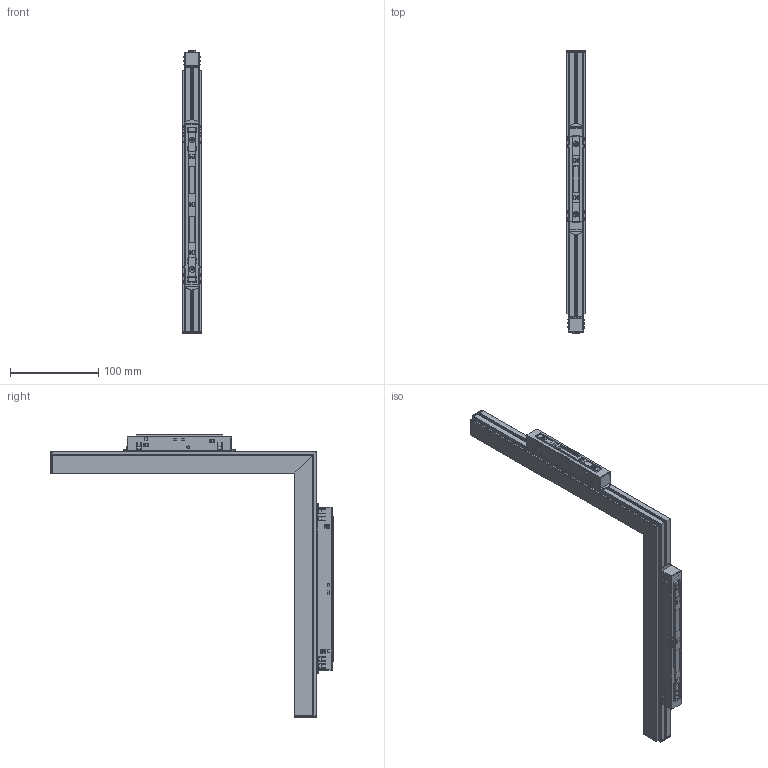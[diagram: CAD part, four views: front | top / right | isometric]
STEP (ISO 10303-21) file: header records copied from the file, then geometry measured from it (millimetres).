
FILE_DESCRIPTION (( 'STEP AP203' ), '1' );
FILE_NAME ('410233.STEP', '2025-04-02T03:14:45', ( '微软用户' ), ( '微软中国' ), 'SwSTEP 2.0', 'SolidWorks 2020', '' );
FILE_SCHEMA (( 'CONFIG_CONTROL_DESIGN' ));
Length unit declared in the file: millimetre
Products named in the file (40): ｳﾁﾍｷﾊｮﾗﾖﾗﾔｹ･ﾂﾝﾋｿ M2.5X5; ｳﾁﾍｷﾊｮﾗﾖﾗﾔｹ･ﾂﾝﾋｿ M2.5X8; MANIFOLD_SOLID_BREP_1150; MANIFOLD_SOLID_BREP_5139_2; MANIFOLD_SOLID_BREP_48041; 1; L垂直转角泛光灯灯体-300; MANIFOLD_SOLID_BREP_5133_2; MANIFOLD_SOLID_BREP_1155; MANIFOLD_SOLID_BREP_5140_2; MANIFOLD_SOLID_BREP_50903; L垂直转角泛光灯灯体; MANIFOLD_SOLID_BREP_1145; MANIFOLD_SOLID_BREP_5134_2; MANIFOLD_SOLID_BREP_1156; MANIFOLD_SOLID_BREP_41654; MANIFOLD_SOLID_BREP_53625_2; L蛌褒棠柲嫖埭-L-300; MANIFOLD_SOLID_BREP_1146; MANIFOLD_SOLID_BREP_5135_2; 10-07-WJ1; MANIFOLD_SOLID_BREP_41700; 08-22-W1_37_ASM; L垂直转角泛光面罩-300; MANIFOLD_SOLID_BREP_1147; MANIFOLD_SOLID_BREP_5136_8; 10-08-G1_1; DK-1_0406A_14_59_ASM; 03_X_T; 黑芛掖蝶411130000064; MANIFOLD_SOLID_BREP_1148; MANIFOLD_SOLID_BREP_5137_2; 10-10-gk-2; 08-20-PC1_6; 沉头十字自攻螺丝M3X6; 滓嫖黑芛201010000508; MANIFOLD_SOLID_BREP_1149; MANIFOLD_SOLID_BREP_5138_2; 410233; MANIFOLD_SOLID_BREP_45179_2
Assembly tree (49 placements, depth 4):
  410233
    L垂直转角泛光灯灯体
      L垂直转角泛光灯灯体-300  x2
    L蛌褒棠柲嫖埭-L-300  x2
    L垂直转角泛光面罩-300  x2
    黑芛掖蝶411130000064  x2
    滓嫖黑芛201010000508  x2
    ｳﾁﾍｷﾊｮﾗﾖﾗﾔｹ･ﾂﾝﾋｿ M2.5X8  x4
    1
      MANIFOLD_SOLID_BREP_5133_2
      MANIFOLD_SOLID_BREP_5134_2
      MANIFOLD_SOLID_BREP_5135_2
      MANIFOLD_SOLID_BREP_5136_8
      MANIFOLD_SOLID_BREP_5137_2
      MANIFOLD_SOLID_BREP_5138_2
      MANIFOLD_SOLID_BREP_5139_2
      MANIFOLD_SOLID_BREP_5140_2
      DK-1_0406A_14_59_ASM
        MANIFOLD_SOLID_BREP_41654
        MANIFOLD_SOLID_BREP_41700
      08-20-PC1_6
      08-22-W1_37_ASM
        MANIFOLD_SOLID_BREP_45179_2
        MANIFOLD_SOLID_BREP_48041
        MANIFOLD_SOLID_BREP_50903
        MANIFOLD_SOLID_BREP_53625_2
      03_X_T
      沉头十字自攻螺丝M3X6  x2
      ｳﾁﾍｷﾊｮﾗﾖﾗﾔｹ･ﾂﾝﾋｿ M2.5X5  x2
    10-10-gk-2
      MANIFOLD_SOLID_BREP_1145
      MANIFOLD_SOLID_BREP_1146
      MANIFOLD_SOLID_BREP_1147
      MANIFOLD_SOLID_BREP_1148
      MANIFOLD_SOLID_BREP_1149
      MANIFOLD_SOLID_BREP_1150
      MANIFOLD_SOLID_BREP_1155
      MANIFOLD_SOLID_BREP_1156
      10-07-WJ1
      10-08-G1_1
Bounding box: 22.1 x 321.4 x 321.2 mm (x, y, z)
Volume: 162268.6 mm3; surface area: 235127.5 mm2
Topology: 47 solids, 49 shells, 4943 faces, 13148 edges, 8583 vertices
Faces by surface type: plane 3437, cylinder 1032, bspline 236, cone 165, torus 73
Entity records: 146627 total; most frequent: CARTESIAN_POINT 43941, ORIENTED_EDGE 21620, DIRECTION 18268, EDGE_CURVE 10813, LINE 7936, VECTOR 7936, VERTEX_POINT 7049, AXIS2_PLACEMENT_3D 5166
